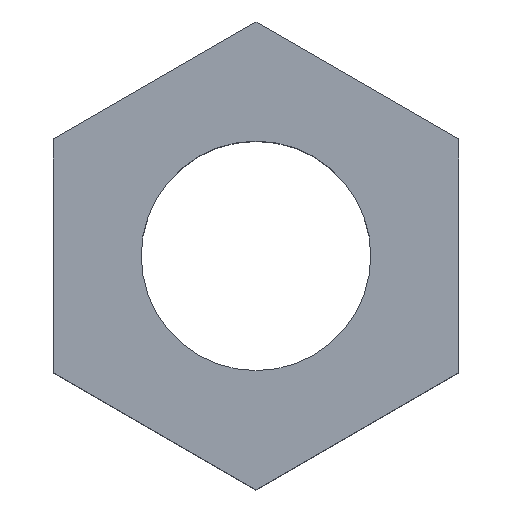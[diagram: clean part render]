
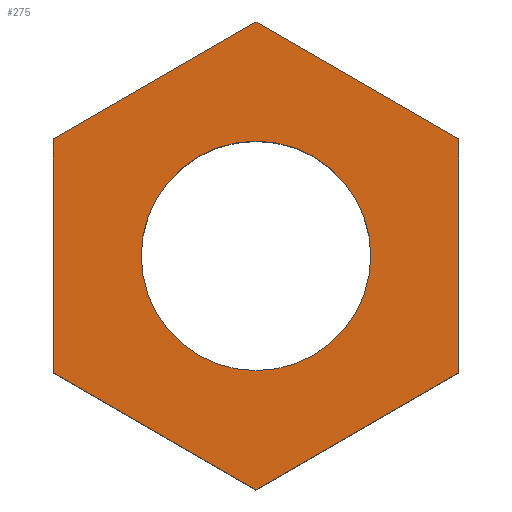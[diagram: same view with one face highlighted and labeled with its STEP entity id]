
A CAD part, top view. The second image highlights one B-rep face of the part: STEP entity #275.
In plain terms, the highlighted planar face has unit normal (0, 0, 1).
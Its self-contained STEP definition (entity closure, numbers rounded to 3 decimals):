
#3 = VERTEX_POINT ( 'NONE', #423 ) ;
#6 = CARTESIAN_POINT ( 'NONE',  ( 0., -8.66, 0. ) ) ;
#20 = EDGE_LOOP ( 'NONE', ( #196, #115, #53, #231, #446, #224 ) ) ;
#22 = EDGE_CURVE ( 'NONE', #150, #139, #234, .T. ) ;
#24 = CIRCLE ( 'NONE', #292, 4.25 ) ;
#31 = EDGE_CURVE ( 'NONE', #182, #150, #338, .T. ) ;
#33 = LINE ( 'NONE', #136, #420 ) ;
#34 = VERTEX_POINT ( 'NONE', #113 ) ;
#42 = VECTOR ( 'NONE', #268, 1000. ) ;
#46 = DIRECTION ( 'NONE',  ( -0.866, -0.5, 0. ) ) ;
#52 = AXIS2_PLACEMENT_3D ( 'NONE', #95, #61, #59 ) ;
#53 = ORIENTED_EDGE ( 'NONE', *, *, #22, .T. ) ;
#54 = CARTESIAN_POINT ( 'NONE',  ( 7.5, -4.33, 0. ) ) ;
#58 = DIRECTION ( 'NONE',  ( -1., 0., 0. ) ) ;
#59 = DIRECTION ( 'NONE',  ( 1., 0., 0. ) ) ;
#61 = DIRECTION ( 'NONE',  ( 0., 0., 1. ) ) ;
#63 = EDGE_CURVE ( 'NONE', #296, #182, #133, .T. ) ;
#65 = CIRCLE ( 'NONE', #329, 4.25 ) ;
#89 = CARTESIAN_POINT ( 'NONE',  ( 0., -8.66, 0. ) ) ;
#95 = CARTESIAN_POINT ( 'NONE',  ( 0., 0., 0. ) ) ;
#96 = CARTESIAN_POINT ( 'NONE',  ( -7.5, 4.33, 0. ) ) ;
#110 = VERTEX_POINT ( 'NONE', #385 ) ;
#112 = EDGE_CURVE ( 'NONE', #374, #34, #65, .T. ) ;
#113 = CARTESIAN_POINT ( 'NONE',  ( -4.25, 0., 0. ) ) ;
#115 = ORIENTED_EDGE ( 'NONE', *, *, #31, .T. ) ;
#133 = LINE ( 'NONE', #96, #281 ) ;
#136 = CARTESIAN_POINT ( 'NONE',  ( 7.5, 4.33, 0. ) ) ;
#139 = VERTEX_POINT ( 'NONE', #54 ) ;
#144 = ORIENTED_EDGE ( 'NONE', *, *, #112, .T. ) ;
#149 = CARTESIAN_POINT ( 'NONE',  ( 0., 0., 0. ) ) ;
#150 = VERTEX_POINT ( 'NONE', #89 ) ;
#157 = CARTESIAN_POINT ( 'NONE',  ( -7.5, -4.33, 0. ) ) ;
#162 = CARTESIAN_POINT ( 'NONE',  ( -7.5, -4.33, 0. ) ) ;
#182 = VERTEX_POINT ( 'NONE', #162 ) ;
#184 = EDGE_LOOP ( 'NONE', ( #370, #144 ) ) ;
#196 = ORIENTED_EDGE ( 'NONE', *, *, #63, .T. ) ;
#214 = EDGE_CURVE ( 'NONE', #3, #296, #298, .T. ) ;
#224 = ORIENTED_EDGE ( 'NONE', *, *, #214, .T. ) ;
#231 = ORIENTED_EDGE ( 'NONE', *, *, #388, .T. ) ;
#234 = LINE ( 'NONE', #6, #42 ) ;
#240 = DIRECTION ( 'NONE',  ( 0., 0., -1. ) ) ;
#247 = DIRECTION ( 'NONE',  ( -0.866, 0.5, 0. ) ) ;
#268 = DIRECTION ( 'NONE',  ( 0.866, 0.5, 0. ) ) ;
#275 = ADVANCED_FACE ( 'NONE', ( #465, #308 ), #349, .T. ) ;
#281 = VECTOR ( 'NONE', #310, 1000. ) ;
#291 = CARTESIAN_POINT ( 'NONE',  ( 4.25, 0., 0. ) ) ;
#292 = AXIS2_PLACEMENT_3D ( 'NONE', #149, #295, #486 ) ;
#295 = DIRECTION ( 'NONE',  ( 0., 0., -1. ) ) ;
#296 = VERTEX_POINT ( 'NONE', #391 ) ;
#298 = LINE ( 'NONE', #348, #467 ) ;
#308 = FACE_OUTER_BOUND ( 'NONE', #20, .T. ) ;
#310 = DIRECTION ( 'NONE',  ( 0., -1., 0. ) ) ;
#318 = LINE ( 'NONE', #478, #336 ) ;
#329 = AXIS2_PLACEMENT_3D ( 'NONE', #392, #240, #58 ) ;
#336 = VECTOR ( 'NONE', #369, 1000. ) ;
#338 = LINE ( 'NONE', #157, #417 ) ;
#348 = CARTESIAN_POINT ( 'NONE',  ( 0., 8.66, 0. ) ) ;
#349 = PLANE ( 'NONE',  #52 ) ;
#355 = EDGE_CURVE ( 'NONE', #34, #374, #24, .T. ) ;
#368 = EDGE_CURVE ( 'NONE', #110, #3, #33, .T. ) ;
#369 = DIRECTION ( 'NONE',  ( 0., 1., 0. ) ) ;
#370 = ORIENTED_EDGE ( 'NONE', *, *, #355, .T. ) ;
#374 = VERTEX_POINT ( 'NONE', #291 ) ;
#385 = CARTESIAN_POINT ( 'NONE',  ( 7.5, 4.33, 0. ) ) ;
#388 = EDGE_CURVE ( 'NONE', #139, #110, #318, .T. ) ;
#391 = CARTESIAN_POINT ( 'NONE',  ( -7.5, 4.33, 0. ) ) ;
#392 = CARTESIAN_POINT ( 'NONE',  ( 0., 0., 0. ) ) ;
#417 = VECTOR ( 'NONE', #487, 1000. ) ;
#420 = VECTOR ( 'NONE', #247, 1000. ) ;
#423 = CARTESIAN_POINT ( 'NONE',  ( 0., 8.66, 0. ) ) ;
#446 = ORIENTED_EDGE ( 'NONE', *, *, #368, .T. ) ;
#465 = FACE_BOUND ( 'NONE', #184, .T. ) ;
#467 = VECTOR ( 'NONE', #46, 1000. ) ;
#478 = CARTESIAN_POINT ( 'NONE',  ( 7.5, -4.33, 0. ) ) ;
#486 = DIRECTION ( 'NONE',  ( -1., 0., 0. ) ) ;
#487 = DIRECTION ( 'NONE',  ( 0.866, -0.5, 0. ) ) ;
